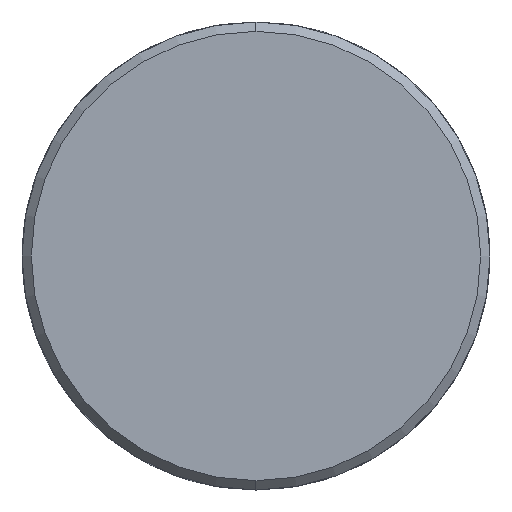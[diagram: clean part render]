
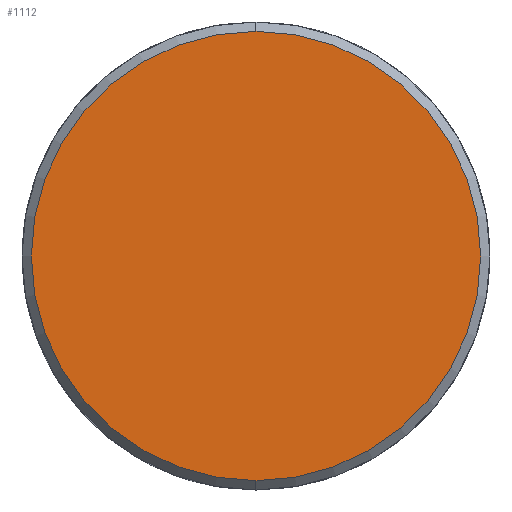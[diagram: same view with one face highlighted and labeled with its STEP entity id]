
A CAD part, left-side view. The second image highlights one B-rep face of the part: STEP entity #1112.
In plain terms, the highlighted planar face has unit normal (-1, 0, 0).
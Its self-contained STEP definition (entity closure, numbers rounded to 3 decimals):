
#588 = CARTESIAN_POINT ( 'NONE',  ( 0., 0., 0. ) ) ;
#835 = CARTESIAN_POINT ( 'NONE',  ( 0., 0., -12. ) ) ;
#941 = CARTESIAN_POINT ( 'NONE',  ( 0., 0., 12. ) ) ;
#1074 = EDGE_CURVE ( 'NONE', #6832, #4867, #1619, .T. ) ;
#1112 = ADVANCED_FACE ( 'NONE', ( #1737 ), #1356, .T. ) ;
#1317 = DIRECTION ( 'NONE',  ( 0., 0., -1. ) ) ;
#1326 = DIRECTION ( 'NONE',  ( 1., 0., 0. ) ) ;
#1330 = CARTESIAN_POINT ( 'NONE',  ( 0., 0., 0. ) ) ;
#1356 = PLANE ( 'NONE',  #1951 ) ;
#1545 = ORIENTED_EDGE ( 'NONE', *, *, #1074, .F. ) ;
#1619 = CIRCLE ( 'NONE', #2883, 12. ) ;
#1727 = EDGE_LOOP ( 'NONE', ( #2052, #1545 ) ) ;
#1737 = FACE_OUTER_BOUND ( 'NONE', #1727, .T. ) ;
#1951 = AXIS2_PLACEMENT_3D ( 'NONE', #588, #5238, #8084 ) ;
#1953 = DIRECTION ( 'NONE',  ( 1., 0., 0. ) ) ;
#2052 = ORIENTED_EDGE ( 'NONE', *, *, #7970, .F. ) ;
#2883 = AXIS2_PLACEMENT_3D ( 'NONE', #1330, #1326, #1317 ) ;
#3430 = CIRCLE ( 'NONE', #5066, 12. ) ;
#4867 = VERTEX_POINT ( 'NONE', #835 ) ;
#5066 = AXIS2_PLACEMENT_3D ( 'NONE', #5942, #1953, #6595 ) ;
#5238 = DIRECTION ( 'NONE',  ( -1., 0., 0. ) ) ;
#5942 = CARTESIAN_POINT ( 'NONE',  ( 0., 0., 0. ) ) ;
#6595 = DIRECTION ( 'NONE',  ( 0., 0., -1. ) ) ;
#6832 = VERTEX_POINT ( 'NONE', #941 ) ;
#7970 = EDGE_CURVE ( 'NONE', #4867, #6832, #3430, .T. ) ;
#8084 = DIRECTION ( 'NONE',  ( 0., 0., 1. ) ) ;
